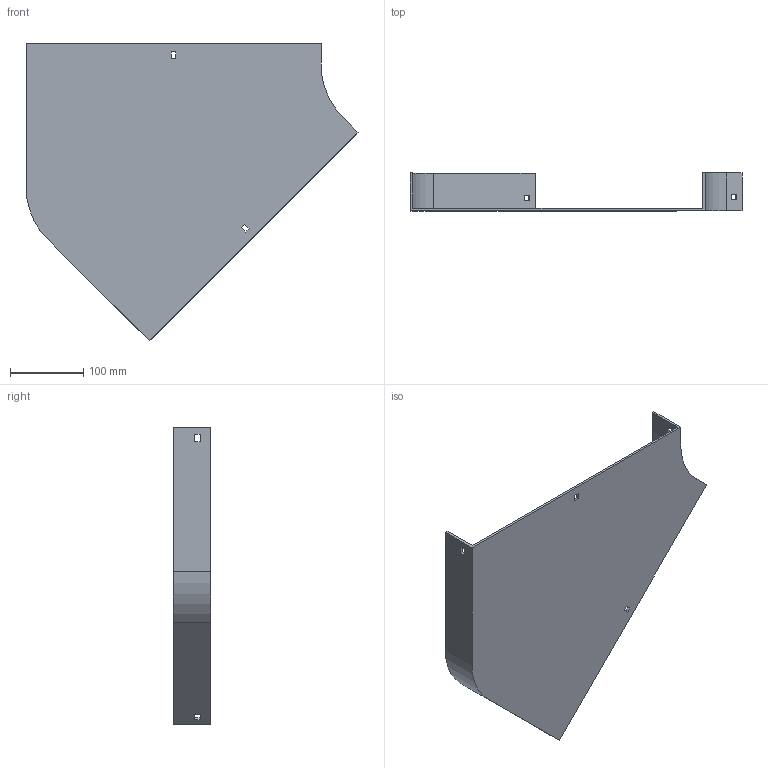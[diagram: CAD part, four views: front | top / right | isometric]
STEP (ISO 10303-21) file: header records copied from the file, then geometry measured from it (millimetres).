
FILE_DESCRIPTION (( 'STEP AP214' ), '1' );
FILE_NAME ('11F1B400.step', '2025-02-21T12:55:42', ( '' ), ( '' ), 'SwSTEP 2.0', 'SolidWorks 2023', '' );
FILE_SCHEMA (( 'AUTOMOTIVE_DESIGN' ));
Length unit declared in the file: millimetre
Products named in the file (1): 11F1B400
Bounding box: 454.5 x 52 x 407.6 mm (x, y, z)
Volume: 541059 mm3; surface area: 315517.8 mm2
Topology: 1 solids, 1 shells, 42 faces, 120 edges, 80 vertices
Faces by surface type: plane 38, cylinder 4
Entity records: 1399 total; most frequent: CARTESIAN_POINT 243, ORIENTED_EDGE 240, DIRECTION 214, EDGE_CURVE 120, VECTOR 112, LINE 112, VERTEX_POINT 80, EDGE_LOOP 54
